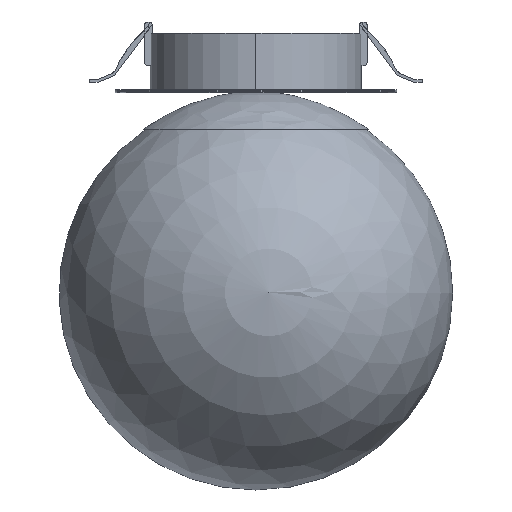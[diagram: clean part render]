
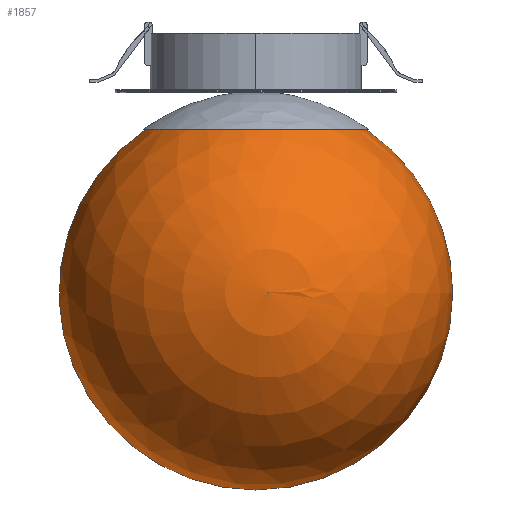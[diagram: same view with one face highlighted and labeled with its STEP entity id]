
A CAD part, top view. The second image highlights one B-rep face of the part: STEP entity #1857.
In plain terms, the highlighted spherical face has radius 70 mm.
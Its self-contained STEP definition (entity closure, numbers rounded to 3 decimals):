
#53 = DIRECTION ( 'NONE',  ( 0., 0., 1. ) ) ;
#175 = CIRCLE ( 'NONE', #3018, 39.192 ) ;
#192 = VERTEX_POINT ( 'NONE', #425 ) ;
#354 = ORIENTED_EDGE ( 'NONE', *, *, #1633, .F. ) ;
#425 = CARTESIAN_POINT ( 'NONE',  ( 0., -70., 0. ) ) ;
#431 = CARTESIAN_POINT ( 'NONE',  ( -39.192, 58., 0. ) ) ;
#454 = DIRECTION ( 'NONE',  ( 0., 0., -1. ) ) ;
#483 = CARTESIAN_POINT ( 'NONE',  ( 0., 58., 0. ) ) ;
#485 = FACE_OUTER_BOUND ( 'NONE', #685, .T. ) ;
#500 = CIRCLE ( 'NONE', #2372, 70. ) ;
#685 = EDGE_LOOP ( 'NONE', ( #354, #1306, #2423 ) ) ;
#703 = VERTEX_POINT ( 'NONE', #1090 ) ;
#1090 = CARTESIAN_POINT ( 'NONE',  ( 39.192, 58., 0. ) ) ;
#1306 = ORIENTED_EDGE ( 'NONE', *, *, #1875, .T. ) ;
#1522 = SPHERICAL_SURFACE ( 'NONE', #1939, 70. ) ;
#1542 = EDGE_CURVE ( 'NONE', #2429, #703, #175, .T. ) ;
#1583 = DIRECTION ( 'NONE',  ( -1., 0., 0. ) ) ;
#1633 = EDGE_CURVE ( 'NONE', #192, #2429, #2855, .T. ) ;
#1857 = ADVANCED_FACE ( 'NONE', ( #485 ), #1522, .T. ) ;
#1875 = EDGE_CURVE ( 'NONE', #192, #703, #500, .T. ) ;
#1939 = AXIS2_PLACEMENT_3D ( 'NONE', #3238, #3256, #3004 ) ;
#2337 = CARTESIAN_POINT ( 'NONE',  ( 0., 0., 0. ) ) ;
#2340 = DIRECTION ( 'NONE',  ( 1., 0., 0. ) ) ;
#2372 = AXIS2_PLACEMENT_3D ( 'NONE', #2584, #53, #2340 ) ;
#2423 = ORIENTED_EDGE ( 'NONE', *, *, #1542, .F. ) ;
#2429 = VERTEX_POINT ( 'NONE', #431 ) ;
#2584 = CARTESIAN_POINT ( 'NONE',  ( 0., 0., 0. ) ) ;
#2749 = DIRECTION ( 'NONE',  ( 0., 1., 0. ) ) ;
#2855 = CIRCLE ( 'NONE', #3124, 70. ) ;
#3004 = DIRECTION ( 'NONE',  ( 1., 0., 0. ) ) ;
#3018 = AXIS2_PLACEMENT_3D ( 'NONE', #483, #2749, #454 ) ;
#3064 = DIRECTION ( 'NONE',  ( 0., 0., -1. ) ) ;
#3124 = AXIS2_PLACEMENT_3D ( 'NONE', #2337, #3064, #1583 ) ;
#3238 = CARTESIAN_POINT ( 'NONE',  ( 0., 0., 0. ) ) ;
#3256 = DIRECTION ( 'NONE',  ( 0., 0., -1. ) ) ;
